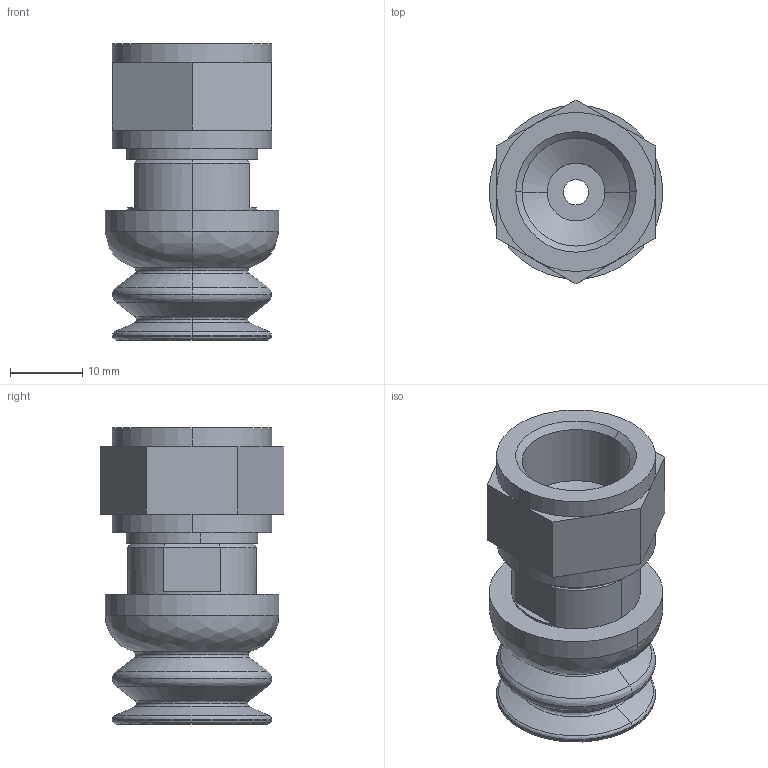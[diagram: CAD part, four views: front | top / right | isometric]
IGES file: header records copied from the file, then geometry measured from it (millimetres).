
Start section: 3D InterOp IGES (Version 26 1 0), Spatial Corp. Copyright (c) 1999-2007.
Global section: file name: schmalz_10_01_06_01650_eloly1okts4jdgu6jp3g3mfcx.igs; native system: Spatial Corp.; preprocessor: 3D InterOp ACIS/IGES; author: TraceParts; organization: TraceParts S.A.; date: 20170423.063834; units: millimetre
Bounding box: 24 x 25.4 x 41 mm (x, y, z)
Surface area: 5908.4 mm2 (no closed solid volume)
Topology: 0 solids, 0 shells, 105 faces, 440 edges, 440 vertices
Faces by surface type: revolution 70, extrusion 35
